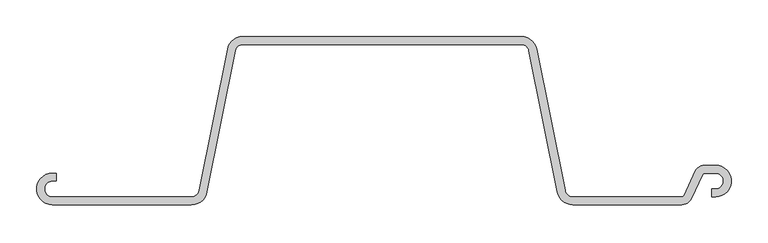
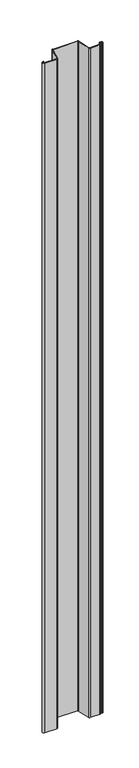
"""IFC4 building model written with IfcOpenShell, lengths in millimetres: proxy geometry, 鋼矢板10H型 : 鋼矢板10H型."""

import ifcopenshell
import ifcopenshell.guid

model = None  # the IFC model being written
_history = None  # IfcOwnerHistory: only IFC2X3 demands one
_inside = {}  # id of a spatial element -> (the spatial element, [elements in it])
_under = {}  # id of a project, library or spatial element -> (it, [spatial elements below it])
_declared = {}  # id of a project -> (the project, [libraries it declares])
_typed = {}  # id of a type object -> (the type object, [elements of that type])
_made_of = {}  # id of a material, layer set ... -> (it, [elements and type objects made of it])


def new_model(schema):
    """Start an empty IFC model of exactly this schema.

    Asked for "IFC4X3", IfcOpenShell would pick the latest addendum, in which some entities
    have other attributes; the version numbers below select the first issue.
    IFC2X3 requires an IfcOwnerHistory on every rooted entity: one is made here for all.
    """
    global model, _history
    if schema == "IFC4X3":
        model = ifcopenshell.file(schema_version=(4, 3, 0, 0))
    else:
        model = ifcopenshell.file(schema=schema)
    _inside.clear()
    _under.clear()
    _declared.clear()
    _typed.clear()
    _made_of.clear()
    _history = None
    if model.schema == "IFC2X3":
        org = make("IfcOrganization", Name="unknown")
        user = make(
            "IfcPersonAndOrganization",
            ThePerson=make("IfcPerson", FamilyName="unknown"),
            TheOrganization=org,
        )
        app = make(
            "IfcApplication",
            ApplicationDeveloper=org,
            Version="unknown",
            ApplicationFullName="unknown",
            ApplicationIdentifier="unknown",
        )
        _history = make(
            "IfcOwnerHistory",
            OwningUser=user,
            OwningApplication=app,
            ChangeAction="ADDED",
            CreationDate=0,
        )
    return model


def make(cls, **values):
    """One entity of the class cls with the attributes given. An attribute that is None is left unset."""
    return model.create_entity(
        cls, **{name: value for name, value in values.items() if value is not None}
    )


def rooted(cls, **values):
    """An entity with a GlobalId (a new one), such as an element, a storey or a relation."""
    return make(cls, GlobalId=ifcopenshell.guid.new(), OwnerHistory=_history, **values)


def si_unit(unit_type, name, prefix=None):
    """IfcSIUnit, for example si_unit("LENGTHUNIT", "METRE", prefix="MILLI")."""
    return make("IfcSIUnit", UnitType=unit_type, Prefix=prefix, Name=name)


def assignment(units):
    """IfcUnitAssignment: the units of a project."""
    return None if units is None else make("IfcUnitAssignment", Units=units)


def point(xyz):
    """IfcCartesianPoint."""
    return None if xyz is None else make("IfcCartesianPoint", Coordinates=xyz)


def direction(xyz):
    """IfcDirection."""
    return None if xyz is None else make("IfcDirection", DirectionRatios=xyz)


def frame(location, z_axis=None, x_axis=None):
    """IfcAxis2Placement3D, a coordinate frame: its origin and axes. An axis left out is left unset."""
    return make(
        "IfcAxis2Placement3D",
        Location=point(location),
        Axis=direction(z_axis),
        RefDirection=direction(x_axis),
    )


def frame_2d(location, x_axis=None):
    """IfcAxis2Placement2D, a coordinate frame in the plane: its origin and x axis."""
    return make(
        "IfcAxis2Placement2D", Location=point(location), RefDirection=direction(x_axis)
    )


def origin():
    """The frame at (0, 0, 0) with its axes left unset."""
    return frame((0.0, 0.0, 0.0))


def place(relative_to, where):
    """IfcLocalPlacement: puts the frame where relative to a parent placement (None: the world)."""
    return make(
        "IfcLocalPlacement", PlacementRelTo=relative_to, RelativePlacement=where
    )


def context(
    kind, dimensions, precision=None, world=None, true_north=None, identifier=None
):
    """IfcGeometricRepresentationContext, for example the 3D "Model" context."""
    return make(
        "IfcGeometricRepresentationContext",
        ContextIdentifier=identifier,
        ContextType=kind,
        CoordinateSpaceDimension=dimensions,
        Precision=precision,
        WorldCoordinateSystem=world,
        TrueNorth=true_north,
    )


def project(units=None, contexts=None):
    """IfcProject with its units and contexts."""
    return rooted(
        "IfcProject",
        Name="project",
        RepresentationContexts=contexts,
        UnitsInContext=assignment(units),
    )


def spatial(cls, under=None, at=None, **own):
    """A site, building, storey or space (cls), placed at a placement, below another one or the project."""
    s = rooted(cls, ObjectPlacement=at, **own)
    if under is not None:
        _under.setdefault(under.id(), (under, []))[1].append(s)
    return s


def polyline(points):
    """IfcPolyline through the points."""
    return make("IfcPolyline", Points=[point(p) for p in points])


def circle_curve(where, radius):
    """IfcCircle in the frame where."""
    return make("IfcCircle", Position=where, Radius=radius)


def trimmed(basis, trim1, trim2, sense, master):
    """IfcTrimmedCurve: the piece of a basis curve between two trims."""
    return make(
        "IfcTrimmedCurve",
        BasisCurve=basis,
        Trim1=trim1,
        Trim2=trim2,
        SenseAgreement=sense,
        MasterRepresentation=master,
    )


def segment(curve, same_sense, transition):
    """IfcCompositeCurveSegment."""
    return make(
        "IfcCompositeCurveSegment",
        Transition=transition,
        SameSense=same_sense,
        ParentCurve=curve,
    )


def composite_curve(segments, self_intersect=None):
    """IfcCompositeCurve: segments joined end to end."""
    return make("IfcCompositeCurve", Segments=segments, SelfIntersect=self_intersect)


def outline(outer, holes=None, kind="AREA"):
    """IfcArbitraryClosedProfileDef: a profile drawn as a closed curve; with holes, ...WithVoids."""
    if holes is None:
        return make("IfcArbitraryClosedProfileDef", ProfileType=kind, OuterCurve=outer)
    return make(
        "IfcArbitraryProfileDefWithVoids",
        ProfileType=kind,
        OuterCurve=outer,
        InnerCurves=holes,
    )


def extrude(swept, where, along, depth):
    """IfcExtrudedAreaSolid: the profile swept, set in the frame where, extruded along a direction by depth."""
    return make(
        "IfcExtrudedAreaSolid",
        SweptArea=swept,
        Position=where,
        ExtrudedDirection=direction(along),
        Depth=depth,
    )


def shape(context_of_items, identifier, shape_type, items):
    """IfcShapeRepresentation: the items that make up one representation, for example the "Body"."""
    return make(
        "IfcShapeRepresentation",
        ContextOfItems=context_of_items,
        RepresentationIdentifier=identifier,
        RepresentationType=shape_type,
        Items=items,
    )


def source(mapping_origin, context_of_items, identifier, shape_type, items):
    """IfcRepresentationMap: a shape defined once, which mapped items show again and again."""
    return make(
        "IfcRepresentationMap",
        MappingOrigin=mapping_origin,
        MappedRepresentation=shape(context_of_items, identifier, shape_type, items),
    )


def transform(
    local_origin,
    x_axis=None,
    y_axis=None,
    z_axis=None,
    scale=None,
    scale2=None,
    scale3=None,
    uniform=True,
):
    """IfcCartesianTransformationOperator3D, or its non-uniform kind. x_axis, y_axis, z_axis: its Axis1, 2, 3."""
    if uniform:
        return make(
            "IfcCartesianTransformationOperator3D",
            Axis1=direction(x_axis),
            Axis2=direction(y_axis),
            LocalOrigin=point(local_origin),
            Scale=scale,
            Axis3=direction(z_axis),
        )
    return make(
        "IfcCartesianTransformationOperator3DnonUniform",
        Axis1=direction(x_axis),
        Axis2=direction(y_axis),
        LocalOrigin=point(local_origin),
        Scale=scale,
        Axis3=direction(z_axis),
        Scale2=scale2,
        Scale3=scale3,
    )


def mapped(mapping_source, mapping_target):
    """IfcMappedItem: shows the shape of a source again, moved by a transform."""
    return make(
        "IfcMappedItem", MappingSource=mapping_source, MappingTarget=mapping_target
    )


def made_of(thing, what):
    """Note that an element or type object is made of a material, layer set ...; save() writes the relation."""
    if what is not None:
        _made_of.setdefault(what.id(), (what, []))[1].append(thing)
    return thing


def element(
    cls,
    number,
    at=None,
    inside=None,
    cuts=None,
    type_object=None,
    material=None,
    context=None,
    identifier="Body",
    shape_type=None,
    held_by="IfcProductDefinitionShape",
    body=None,
    shapes=None,
    **own,
):
    """One element of the class cls, such as IfcWall. Its Tag is "e" and its number.

    at: its placement. inside: the storey or other place that contains it. cuts: it is an
    opening in that element (IfcRelVoidsElement). A single representation is given by context,
    identifier, shape_type and body (its items); several are given by shapes. held_by: the class
    of the entity that holds the representations. save() writes the other relations.
    """
    e = rooted(cls, Tag="e%d" % number, ObjectPlacement=at, **own)
    if body is not None:
        shapes = [shape(context, identifier, shape_type, body)]
    if shapes is not None:
        e.Representation = make(held_by, Representations=shapes)
    if inside is not None:
        _inside.setdefault(inside.id(), (inside, []))[1].append(e)
    if cuts is not None:
        rooted(
            "IfcRelVoidsElement", RelatingBuildingElement=cuts, RelatedOpeningElement=e
        )
    if type_object is not None:
        _typed.setdefault(type_object.id(), (type_object, []))[1].append(e)
    return made_of(e, material)


def aggregate(whole, parts):
    """IfcRelAggregates: a whole, such as a stair, and the parts it consists of."""
    return rooted("IfcRelAggregates", RelatingObject=whole, RelatedObjects=parts)


def save(model, path):
    """Write the relations noted so far, then the file.

    IfcRelAggregates (storeys below a building ...), IfcRelContainedInSpatialStructure (elements
    in a storey), IfcRelDefinesByType, IfcRelAssociatesMaterial and IfcRelDeclares: one each for
    every whole, place, type object, material and project.
    """
    for whole, parts in _under.values():
        aggregate(whole, parts)
    for where, things in _inside.values():
        rooted(
            "IfcRelContainedInSpatialStructure",
            RelatedElements=things,
            RelatingStructure=where,
        )
    for kind, things in _typed.values():
        rooted("IfcRelDefinesByType", RelatedObjects=things, RelatingType=kind)
    for what, things in _made_of.values():
        rooted("IfcRelAssociatesMaterial", RelatedObjects=things, RelatingMaterial=what)
    for by, libraries in _declared.values():
        rooted("IfcRelDeclares", RelatingContext=by, RelatedDefinitions=libraries)
    model.write(path)


def generic_models_3141a809(model_context):
    return source(origin(), model_context, "Body", "SweptSolid", [
        extrude(outline(composite_curve([segment(trimmed(circle_curve(frame_2d((409.1972607, -101.1142857)), 13.8857143), [point((421.7819917, -106.9826421))], [point((409.1972607, -115.0))], False, "CARTESIAN"), True, "CONTINUOUS"), segment(polyline([(409.1972607, -115.0), (260.2008232, -115.0)]), True, "CONTINUOUS"), segment(trimmed(circle_curve(frame_2d((260.2008232, -93.4)), 21.6), [point((260.2008232, -115.0))], [point((239.0202806, -97.6361085))], False, "CARTESIAN"), True, "CONTINUOUS"), segment(polyline([(239.0202806, -97.6361085), (200.3894481, 95.5180543)]), True, "CONTINUOUS"), segment(trimmed(circle_curve(frame_2d((189.7991768, 93.4)), 10.8), [point((200.3894481, 95.5180543))], [point((189.7991768, 104.2))], True, "CARTESIAN"), True, "CONTINUOUS"), segment(polyline([(189.7991768, 104.2), (-189.7991768, 104.2)]), True, "CONTINUOUS"), segment(trimmed(circle_curve(frame_2d((-189.7991768, 93.4)), 10.8), [point((-189.7991768, 104.2))], [point((-200.3894481, 95.5180543))], True, "CARTESIAN"), True, "CONTINUOUS"), segment(polyline([(-200.3894481, 95.5180543), (-239.0202806, -97.6361085)]), True, "CONTINUOUS"), segment(trimmed(circle_curve(frame_2d((-260.2008232, -93.4)), 21.6), [point((-239.0202806, -97.6361085))], [point((-260.2008232, -115.0))], False, "CARTESIAN"), True, "CONTINUOUS"), segment(polyline([(-260.2008232, -115.0), (-450.0, -115.0)]), True, "CONTINUOUS"), segment(trimmed(circle_curve(frame_2d((-450.0, -93.4)), 21.6), [point((-450.0, -115.0))], [point((-450.0, -71.8))], False, "CARTESIAN"), True, "CONTINUOUS"), segment(polyline([(-450.0, -71.8), (-445.0, -71.8), (-445.0, -82.6), (-450.0, -82.6)]), True, "CONTINUOUS"), segment(trimmed(circle_curve(frame_2d((-450.0, -93.4)), 10.8), [point((-450.0, -82.6))], [point((-450.0, -104.2))], True, "CARTESIAN"), True, "CONTINUOUS"), segment(polyline([(-450.0, -104.2), (-260.2008232, -104.2)]), True, "CONTINUOUS"), segment(trimmed(circle_curve(frame_2d((-260.2008232, -93.4)), 10.8), [point((-260.2008232, -104.2))], [point((-249.6105519, -95.5180543))], True, "CARTESIAN"), True, "CONTINUOUS"), segment(polyline([(-249.6105519, -95.5180543), (-210.9797194, 97.6361085)]), True, "CONTINUOUS"), segment(trimmed(circle_curve(frame_2d((-189.7991768, 93.4)), 21.6), [point((-210.9797194, 97.6361085))], [point((-189.7991768, 115.0))], False, "CARTESIAN"), True, "CONTINUOUS"), segment(polyline([(-189.7991768, 115.0), (189.7991768, 115.0)]), True, "CONTINUOUS"), segment(trimmed(circle_curve(frame_2d((189.7991768, 93.4)), 21.6), [point((189.7991768, 115.0))], [point((210.9797194, 97.6361085))], False, "CARTESIAN"), True, "CONTINUOUS"), segment(polyline([(210.9797194, 97.6361085), (249.6105519, -95.5180543)]), True, "CONTINUOUS"), segment(trimmed(circle_curve(frame_2d((260.2008232, -93.4)), 10.8), [point((249.6105519, -95.5180543))], [point((260.2008232, -104.2))], True, "CARTESIAN"), True, "CONTINUOUS"), segment(polyline([(260.2008232, -104.2), (409.1972607, -104.2)]), True, "CONTINUOUS"), segment(trimmed(circle_curve(frame_2d((409.1972607, -101.1142857)), 3.0857143), [point((409.1972607, -104.2))], [point((411.9938676, -102.4183649))], True, "CARTESIAN"), True, "CONTINUOUS"), segment(polyline([(411.9938676, -102.4183649), (427.569013, -69.0173579)]), True, "CONTINUOUS"), segment(trimmed(circle_curve(frame_2d((440.153744, -74.8857143)), 13.8857143), [point((427.569013, -69.0173579))], [point((440.153744, -61.0))], False, "CARTESIAN"), True, "CONTINUOUS"), segment(polyline([(440.153744, -61.0), (455.0, -61.0)]), True, "CONTINUOUS"), segment(trimmed(circle_curve(frame_2d((455.0, -82.6)), 21.6), [point((455.0, -61.0))], [point((455.0, -104.2))], False, "CARTESIAN"), True, "CONTINUOUS"), segment(polyline([(455.0, -104.2), (450.0, -104.2), (450.0, -93.4), (455.0, -93.4)]), True, "CONTINUOUS"), segment(trimmed(circle_curve(frame_2d((455.0, -82.6)), 10.8), [point((455.0, -93.4))], [point((455.0, -71.8))], True, "CARTESIAN"), True, "CONTINUOUS"), segment(polyline([(455.0, -71.8), (440.153744, -71.8)]), True, "CONTINUOUS"), segment(trimmed(circle_curve(frame_2d((440.153744, -74.8857143)), 3.0857143), [point((440.153744, -71.8))], [point((437.3571371, -73.5816351))], True, "CARTESIAN"), True, "CONTINUOUS"), segment(polyline([(437.3571371, -73.5816351), (421.7819917, -106.9826421)]), True, "CONTINUOUS")], self_intersect=False)), frame((0.0, 0.0, -11000.0), z_axis=(0.0, 0.0, 1.0), x_axis=(1.0, 0.0, 0.0)), (0.0, 0.0, 1.0), 11000.0),
    ])


if __name__ == "__main__":
    model = new_model("IFC4")
    model_context = context("Model", 3, world=origin())
    ifc_project = project(units=[si_unit("LENGTHUNIT", "METRE", prefix="MILLI")], contexts=[model_context])
    site = spatial("IfcSite", under=ifc_project)
    building = spatial("IfcBuilding", under=site)
    placement = place(None, origin())
    generic_models_shape = generic_models_3141a809(model_context)
    element("IfcBuildingElementProxy", 1, Name="鋼矢板10H型 : 鋼矢板10H型", ObjectType="鋼矢板10H型 : 鋼矢板10H型", at=placement, inside=building, context=model_context, shape_type="MappedRepresentation", body=[
        mapped(generic_models_shape, transform((0.0, 0.0, 0.0), x_axis=(1.0, 0.0, 0.0), y_axis=(0.0, 1.0, 0.0), z_axis=(0.0, 0.0, 1.0))),
    ])
    save(model, "model.ifc")
